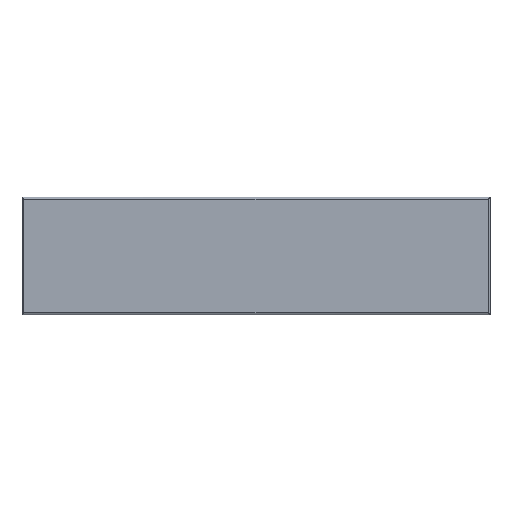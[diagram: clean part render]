
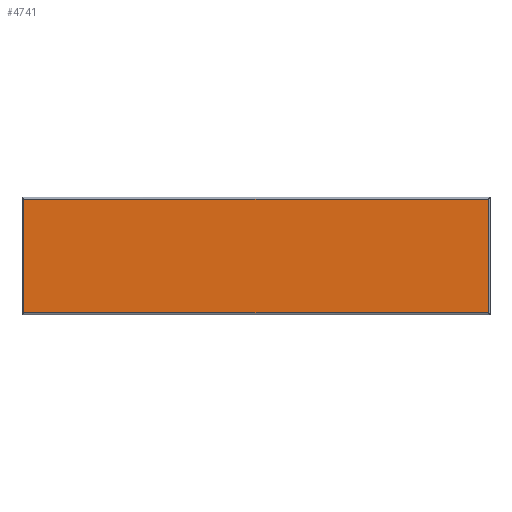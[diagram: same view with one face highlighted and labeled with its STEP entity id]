
A CAD part, top view. The second image highlights one B-rep face of the part: STEP entity #4741.
In plain terms, the highlighted planar face has unit normal (0, 0, 1).
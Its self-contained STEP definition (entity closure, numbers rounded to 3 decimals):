
#3746=CARTESIAN_POINT(' ',(-197.9,-48.4,0.));
#3751=DIRECTION(' ',(1.,0.,0.));
#3756=VECTOR(' ',#3751,1.);
#3761=LINE('',#3746,#3756);
#3766=CARTESIAN_POINT(' ',(-197.9,-48.4,0.));
#3767=VERTEX_POINT(' ',#3766);
#3771=CARTESIAN_POINT(' ',(197.9,-48.4,0.));
#3772=VERTEX_POINT(' ',#3771);
#3776=EDGE_CURVE(' ',#3767,#3772,#3761,.T.);
#4601=DIRECTION(' ',(-0.,-0.,1.));
#4606=CARTESIAN_POINT(' ',(197.9,-48.4,0.));
#4611=DIRECTION(' ',(0.,1.,0.));
#4616=AXIS2_PLACEMENT_3D(' ',#4606,#4601,#4611);
#4621=PLANE('NONE',#4616);
#4626=CARTESIAN_POINT(' ',(197.9,-48.4,0.));
#4631=DIRECTION(' ',(0.,1.,0.));
#4636=VECTOR(' ',#4631,1.);
#4641=LINE('',#4626,#4636);
#4646=CARTESIAN_POINT(' ',(197.9,48.4,0.));
#4647=VERTEX_POINT(' ',#4646);
#4651=EDGE_CURVE(' ',#3772,#4647,#4641,.T.);
#4656=ORIENTED_EDGE(' ',*,*,#4651,.T.);
#4661=CARTESIAN_POINT(' ',(197.9,48.4,0.));
#4666=DIRECTION(' ',(-1.,0.,0.));
#4671=VECTOR(' ',#4666,1.);
#4676=LINE('',#4661,#4671);
#4681=CARTESIAN_POINT(' ',(-197.9,48.4,0.));
#4682=VERTEX_POINT(' ',#4681);
#4686=EDGE_CURVE(' ',#4647,#4682,#4676,.T.);
#4691=ORIENTED_EDGE(' ',*,*,#4686,.T.);
#4696=CARTESIAN_POINT(' ',(-197.9,48.4,0.));
#4701=DIRECTION(' ',(0.,-1.,0.));
#4706=VECTOR(' ',#4701,1.);
#4711=LINE('',#4696,#4706);
#4716=EDGE_CURVE(' ',#4682,#3767,#4711,.T.);
#4721=ORIENTED_EDGE(' ',*,*,#4716,.T.);
#4726=ORIENTED_EDGE(' ',*,*,#3776,.T.);
#4731=EDGE_LOOP(' ',(#4656,#4691,#4721,#4726));
#4736=FACE_OUTER_BOUND(' ',#4731,.T.);
#4741=ADVANCED_FACE('NONE',(#4736),#4621,.T.);
